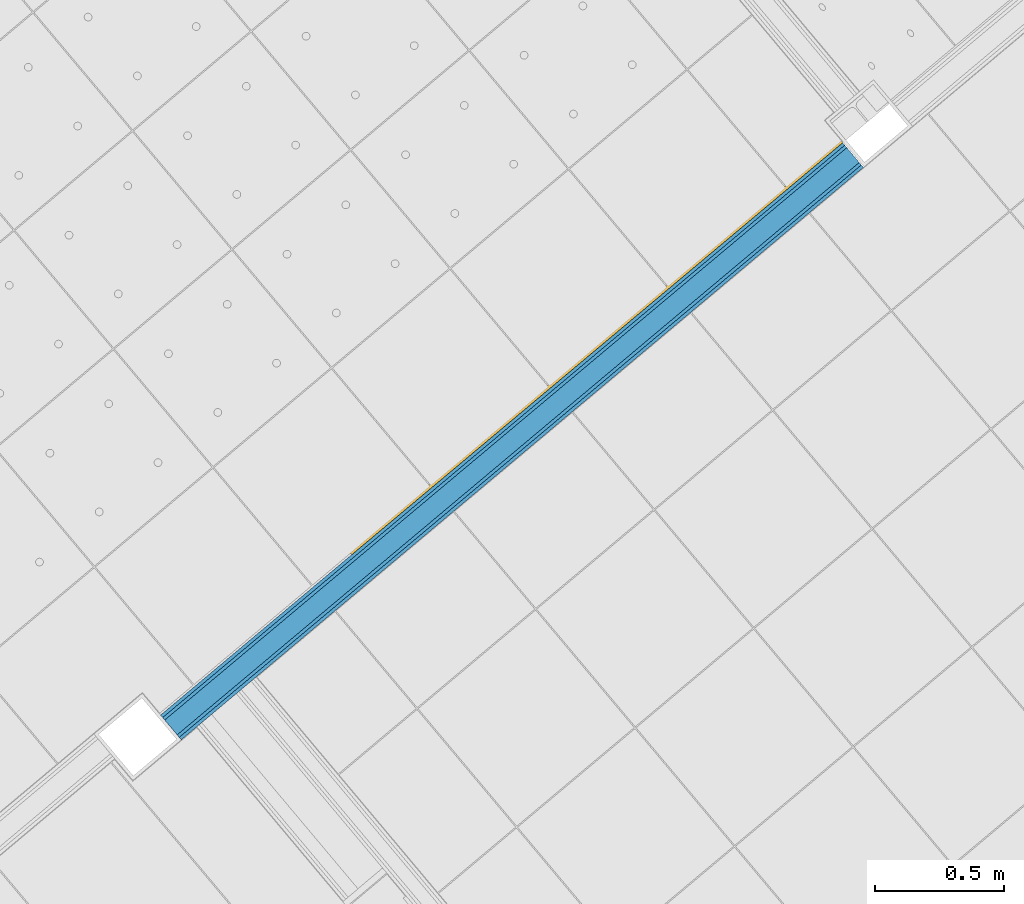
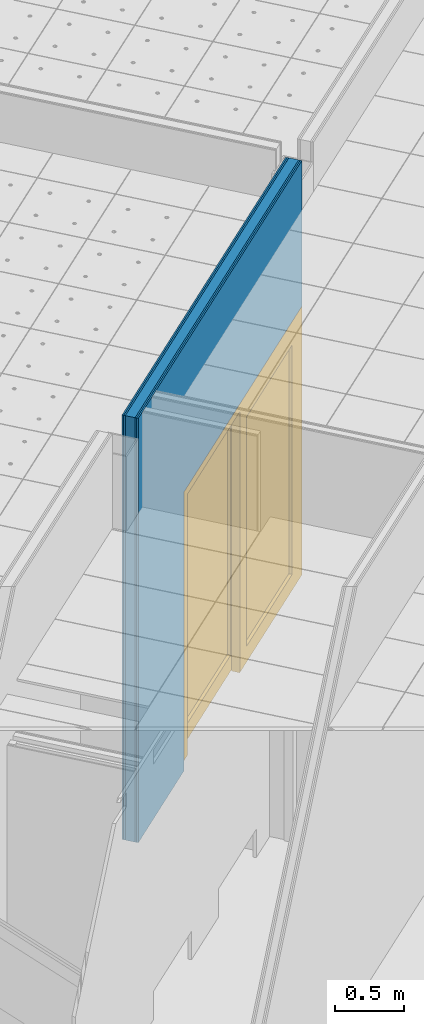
# One storey, part 6 of 338: 5 building element parts, 1 door, 1 opening, 1 element without a shape of its own.
"""IFC2X3 building model written with IfcOpenShell, lengths in millimetres."""

from ifc_helpers import new_model, entity, si_unit, converted_unit, derived_unit, money_unit, direction, frame, origin_with_axes, place, context, subcontext, project, spatial, open_shell, faceted_brep, surface_model, source, transform, mapped, material, type_object, type_shapes, element, fill, aggregate, save


model = new_model("IFC2X3")

# Units and contexts
model_context = context("Model", 3, precision=0.01, world=origin_with_axes(), true_north=direction((0.0, 1.0)))
plan_context = context("Plan", 3, precision=0.01, world=origin_with_axes(), true_north=direction((0.0, 1.0)))
body_context = subcontext(model_context, "Body", "Model", "MODEL_VIEW")
ifc_project = project(units=[si_unit("LENGTHUNIT", "METRE", prefix="MILLI"), si_unit("AREAUNIT", "SQUARE_METRE"), si_unit("VOLUMEUNIT", "CUBIC_METRE"), converted_unit("PLANEANGLEUNIT", "DEGREE", entity("IfcPlaneAngleMeasure", 0.0174532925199), si_unit("PLANEANGLEUNIT", "RADIAN"), dimensions=[0, 0, 0, 0, 0, 0, 0]), money_unit("EUR"), converted_unit("TIMEUNIT", "Year", entity("IfcTimeMeasure", 31556926.0), si_unit("TIMEUNIT", "SECOND"), dimensions=[0, 0, 1, 0, 0, 0, 0]), si_unit("MASSUNIT", "GRAM", prefix="KILO"), si_unit("THERMODYNAMICTEMPERATUREUNIT", "DEGREE_CELSIUS"), si_unit("LUMINOUSINTENSITYUNIT", "LUMEN"), si_unit("ENERGYUNIT", "JOULE", prefix="MEGA"), derived_unit("THERMALCONDUCTANCEUNIT", [(si_unit("POWERUNIT", "WATT"), 1), (si_unit("LENGTHUNIT", "METRE"), -1), (si_unit("THERMODYNAMICTEMPERATUREUNIT", "KELVIN"), -1)]), derived_unit("SPECIFICHEATCAPACITYUNIT", [(si_unit("ENERGYUNIT", "JOULE"), 1), (si_unit("MASSUNIT", "GRAM", prefix="KILO"), -1), (si_unit("THERMODYNAMICTEMPERATUREUNIT", "KELVIN"), -1)]), derived_unit("MASSDENSITYUNIT", [(si_unit("MASSUNIT", "GRAM", prefix="KILO"), 1), (si_unit("VOLUMEUNIT", "CUBIC_METRE"), -1)])], contexts=[model_context, plan_context])

# Site, building, storey
site_placement = place(None, origin_with_axes())
site = spatial("IfcSite", under=ifc_project, at=site_placement, Name="Fortuinstraat Woensdrecht", CompositionType="ELEMENT")
building_placement = place(site_placement, origin_with_axes())
building = spatial("IfcBuilding", under=site, at=building_placement, Name="IKC Fortuna", CompositionType="ELEMENT")
storey_placement = place(building_placement, origin_with_axes())
storey = spatial("IfcBuildingStorey", under=building, at=storey_placement, Name="00 begane grond", CompositionType="ELEMENT", Elevation=0.0)

# Door
door_style = type_object("IfcDoorStyle", Name="DSn 25", ConstructionType="NOTDEFINED", OperationType="USERDEFINED", ParameterTakesPrecedence=False, Sizeable=False)
shared_shape = source(origin_with_axes(), body_context, "Body", "SurfaceModel", [
    faceted_brep([(1242.5, 0.0, 0.0), (1242.5, -139.0, 0.0), (1175.5, -139.0, 0.0), (1175.5, 0.0, 0.0), (1242.5, 0.0, 2300.0), (1242.5, -139.0, 2300.0), (1175.5, -139.0, 2300.0), (1175.5, 0.0, 2300.0)], [[[0, 1, 2, 3]], [[4, 5, 1, 0]], [[1, 5, 6, 2]], [[3, 2, 6, 7]], [[0, 3, 7, 4]], [[7, 6, 5, 4]]]),
    faceted_brep([(-1242.5, 0.0, 0.0), (-1242.5, -139.0, 0.0), (-1242.5, -139.0, 2300.0), (-1242.5, 0.0, 2300.0), (-1175.5, 0.0, 0.0), (-1175.5, -139.0, 0.0), (-1175.5, -139.0, 2300.0), (-1175.5, 0.0, 2300.0)], [[[0, 1, 2, 3]], [[4, 5, 1, 0]], [[1, 5, 6, 2]], [[3, 2, 6, 7]], [[0, 3, 7, 4]], [[7, 6, 5, 4]]]),
    faceted_brep([(1242.5, 0.0, 2367.0), (1242.5, -139.0, 2367.0), (1242.5, -139.0, 2300.0), (1242.5, 0.0, 2300.0), (-1242.5, 0.0, 2367.0), (-1242.5, -139.0, 2367.0), (-1242.5, -139.0, 2300.0), (-1175.5, -139.0, 2300.0), (1175.5, -139.0, 2300.0), (1175.5, 0.0, 2300.0), (-1175.5, 0.0, 2300.0), (-1242.5, 0.0, 2300.0)], [[[0, 1, 2, 3]], [[4, 5, 1, 0]], [[1, 5, 6, 7, 8, 2]], [[3, 2, 8, 9]], [[0, 3, 9, 10, 11, 4]], [[11, 6, 5, 4]], [[10, 7, 6, 11]], [[9, 8, 7, 10]]]),
    faceted_brep([(-1175.5, 0.0, 139.0), (-1036.5, 0.0, 139.0), (-1036.5, -64.5, 139.0), (-1175.5, -64.5, 139.0), (-1175.5, 0.0, 2161.0), (-1036.5, 0.0, 2161.0), (-1036.5, -64.5, 2161.0), (-1175.5, -64.5, 2161.0)], [[[0, 1, 2, 3]], [[0, 4, 5, 1]], [[1, 5, 6, 2]], [[3, 2, 6, 7]], [[4, 0, 3, 7]], [[5, 4, 7, 6]]]),
    faceted_brep([(69.5, 0.0, 139.0), (69.5, 0.0, 2161.0), (69.5, -64.5, 2161.0), (69.5, -64.5, 139.0), (-69.5, 0.0, 139.0), (-69.5, 0.0, 2161.0), (-69.5, -64.5, 2161.0), (-69.5, -64.5, 139.0)], [[[0, 1, 2, 3]], [[0, 4, 5, 1]], [[1, 5, 6, 2]], [[3, 2, 6, 7]], [[4, 0, 3, 7]], [[5, 4, 7, 6]]]),
    faceted_brep([(-1175.5, 0.0, 0.0), (69.5, 0.0, 0.0), (69.5, -64.5, 0.0), (-1175.5, -64.5, 0.0), (-1175.5, 0.0, 139.0), (-1036.5, 0.0, 139.0), (-69.5, 0.0, 139.0), (69.5, 0.0, 139.0), (69.5, -64.5, 139.0), (-69.5, -64.5, 139.0), (-1036.5, -64.5, 139.0), (-1175.5, -64.5, 139.0)], [[[0, 1, 2, 3]], [[0, 4, 5, 6, 7, 1]], [[1, 7, 8, 2]], [[3, 2, 8, 9, 10, 11]], [[4, 0, 3, 11]], [[5, 4, 11, 10]], [[6, 5, 10, 9]], [[7, 6, 9, 8]]]),
    faceted_brep([(-1175.5, 0.0, 2300.0), (-1175.5, 0.0, 2161.0), (-1175.5, -64.5, 2161.0), (-1175.5, -64.5, 2300.0), (69.5, 0.0, 2300.0), (69.5, 0.0, 2161.0), (-69.5, 0.0, 2161.0), (-1036.5, 0.0, 2161.0), (-1036.5, -64.5, 2161.0), (-69.5, -64.5, 2161.0), (69.5, -64.5, 2161.0), (69.5, -64.5, 2300.0)], [[[0, 1, 2, 3]], [[0, 4, 5, 6, 7, 1]], [[1, 7, 8, 2]], [[3, 2, 8, 9, 10, 11]], [[4, 0, 3, 11]], [[5, 4, 11, 10]], [[6, 5, 10, 9]], [[7, 6, 9, 8]]]),
    surface_model("IfcShellBasedSurfaceModel", [(-1036.5, -26.25, 139.0), (-1036.5, -26.25, 2161.0), (-69.5, -26.25, 2161.0), (-69.5, -26.25, 139.0)], [open_shell([[[0, 1, 2, 3]]])]),
    surface_model("IfcShellBasedSurfaceModel", [(-1036.5, -38.25, 139.0), (-69.5, -38.25, 139.0), (-69.5, -38.25, 2161.0), (-1036.5, -38.25, 2161.0)], [open_shell([[[0, 1, 2, 3]]])]),
    faceted_brep([(1110.5, -134.0, 965.0), (1110.5, -144.0, 965.0), (1110.5, -144.0, 1035.0), (1110.5, -134.0, 1035.0), (1140.5, -134.0, 965.0), (1140.5, -144.0, 965.0), (1140.5, -144.0, 1035.0), (1140.5, -134.0, 1035.0)], [[[0, 1, 2, 3]], [[4, 5, 1, 0]], [[1, 5, 6, 2]], [[3, 2, 6, 7]], [[0, 3, 7, 4]], [[7, 6, 5, 4]]]),
    faceted_brep([(1124.13436775, -144.0, 1006.86549696), (1125.5, -144.0, 1007.0), (1126.86563225, -144.0, 1006.86549696), (1128.17878403, -144.0, 1006.46715673), (1129.38899163, -144.0, 1005.82028729), (1130.44974747, -144.0, 1004.94974747), (1131.32028729, -144.0, 1003.88899163), (1131.96715673, -144.0, 1002.67878403), (1132.36549696, -144.0, 1001.36563225), (1132.5, -144.0, 1000.0), (1132.36549696, -144.0, 998.634367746), (1131.96715673, -144.0, 997.321215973), (1131.32028729, -144.0, 996.111008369), (1130.44974747, -144.0, 995.050252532), (1129.38899163, -144.0, 994.179712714), (1128.17878403, -144.0, 993.532843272), (1126.86563225, -144.0, 993.134503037), (1125.5, -144.0, 993.0), (1124.13436775, -144.0, 993.134503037), (1122.82121597, -144.0, 993.532843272), (1121.61100837, -144.0, 994.179712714), (1120.55025253, -144.0, 995.050252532), (1119.67971271, -144.0, 996.111008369), (1119.03284327, -144.0, 997.321215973), (1118.63450304, -144.0, 998.634367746), (1118.5, -144.0, 1000.0), (1118.63450304, -144.0, 1001.36563225), (1119.03284327, -144.0, 1002.67878403), (1119.67971271, -144.0, 1003.88899163), (1120.55025253, -144.0, 1004.94974747), (1121.61100837, -144.0, 1005.82028729), (1122.82121597, -144.0, 1006.46715673), (1124.13436775, -159.0, 1006.86549696), (1125.5, -159.0, 1007.0), (1126.86563225, -159.0, 1006.86549696), (1128.17878403, -159.0, 1006.46715673), (1129.38899163, -159.0, 1005.82028729), (1130.44974747, -159.0, 1004.94974747), (1131.32028729, -159.0, 1003.88899163), (1131.96715673, -159.0, 1002.67878403), (1132.36549696, -159.0, 1001.36563225), (1132.5, -159.0, 1000.0), (1132.36549696, -159.0, 998.634367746), (1131.96715673, -159.0, 997.321215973), (1131.32028729, -159.0, 996.111008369), (1130.44974747, -159.0, 995.050252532), (1129.38899163, -159.0, 994.179712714), (1128.17878403, -159.0, 993.532843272), (1126.86563225, -159.0, 993.134503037), (1125.5, -159.0, 993.0), (1124.13436775, -159.0, 993.134503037), (1122.82121597, -159.0, 993.532843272), (1121.61100837, -159.0, 994.179712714), (1120.55025253, -159.0, 995.050252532), (1119.67971271, -159.0, 996.111008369), (1119.03284327, -159.0, 997.321215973), (1118.63450304, -159.0, 998.634367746), (1118.5, -159.0, 1000.0), (1118.63450304, -159.0, 1001.36563225), (1119.03284327, -159.0, 1002.67878403), (1119.67971271, -159.0, 1003.88899163), (1120.55025253, -159.0, 1004.94974747), (1121.61100837, -159.0, 1005.82028729), (1122.82121597, -159.0, 1006.46715673)], [[[0, 1, 2, 3, 4, 5, 6, 7, 8, 9, 10, 11, 12, 13, 14, 15, 16, 17, 18, 19, 20, 21, 22, 23, 24, 25, 26, 27, 28, 29, 30, 31]], [[0, 32, 33, 1]], [[1, 33, 34, 2]], [[2, 34, 35, 3]], [[3, 35, 36, 4]], [[4, 36, 37, 5]], [[5, 37, 38, 6]], [[6, 38, 39, 7]], [[7, 39, 40, 8]], [[8, 40, 41, 9]], [[9, 41, 42, 10]], [[10, 42, 43, 11]], [[11, 43, 44, 12]], [[12, 44, 45, 13]], [[13, 45, 46, 14]], [[14, 46, 47, 15]], [[15, 47, 48, 16]], [[16, 48, 49, 17]], [[17, 49, 50, 18]], [[18, 50, 51, 19]], [[19, 51, 52, 20]], [[20, 52, 53, 21]], [[21, 53, 54, 22]], [[22, 54, 55, 23]], [[23, 55, 56, 24]], [[24, 56, 57, 25]], [[25, 57, 58, 26]], [[26, 58, 59, 27]], [[27, 59, 60, 28]], [[28, 60, 61, 29]], [[29, 61, 62, 30]], [[30, 62, 63, 31]], [[31, 63, 32, 0]], [[32, 63, 62, 61, 60, 59, 58, 57, 56, 55, 54, 53, 52, 51, 50, 49, 48, 47, 46, 45, 44, 43, 42, 41, 40, 39, 38, 37, 36, 35, 34, 33]]]),
    faceted_brep([(1115.5, -159.0, 990.0), (1115.5, -169.0, 990.0), (1115.5, -169.0, 1010.0), (1115.5, -159.0, 1010.0), (1135.5, -159.0, 990.0), (1135.5, -169.0, 990.0), (1135.5, -169.0, 1010.0), (1135.5, -159.0, 1010.0)], [[[0, 1, 2, 3]], [[4, 5, 1, 0]], [[1, 5, 6, 2]], [[3, 2, 6, 7]], [[0, 3, 7, 4]], [[7, 6, 5, 4]]]),
    faceted_brep([(1115.5, -169.0, 990.0), (1120.5, -167.0, 965.0), (1130.5, -167.0, 965.0), (1135.5, -169.0, 990.0), (1115.5, -159.0, 990.0), (1120.5, -163.0, 965.0), (1130.5, -163.0, 965.0), (1135.5, -159.0, 990.0)], [[[0, 1, 2, 3]], [[4, 5, 1, 0]], [[1, 5, 6, 2]], [[3, 2, 6, 7]], [[0, 3, 7, 4]], [[7, 6, 5, 4]]]),
    faceted_brep([(1115.5, -169.0, 1010.0), (1135.5, -169.0, 1010.0), (1130.5, -167.0, 1035.0), (1120.5, -167.0, 1035.0), (1115.5, -159.0, 1010.0), (1135.5, -159.0, 1010.0), (1130.5, -163.0, 1035.0), (1120.5, -163.0, 1035.0)], [[[0, 1, 2, 3]], [[0, 4, 5, 1]], [[1, 5, 6, 2]], [[3, 2, 6, 7]], [[4, 0, 3, 7]], [[5, 4, 7, 6]]]),
    faceted_brep([(1110.5, -69.5, 965.0), (1110.5, -69.5, 1035.0), (1110.5, -59.5, 1035.0), (1110.5, -59.5, 965.0), (1140.5, -69.5, 965.0), (1140.5, -69.5, 1035.0), (1140.5, -59.5, 1035.0), (1140.5, -59.5, 965.0)], [[[0, 1, 2, 3]], [[0, 4, 5, 1]], [[1, 5, 6, 2]], [[3, 2, 6, 7]], [[4, 0, 3, 7]], [[5, 4, 7, 6]]]),
    faceted_brep([(1124.13436775, -59.5, 1006.86549696), (1122.82121597, -59.5, 1006.46715673), (1121.61100837, -59.5, 1005.82028729), (1120.55025253, -59.5, 1004.94974747), (1119.67971271, -59.5, 1003.88899163), (1119.03284327, -59.5, 1002.67878403), (1118.63450304, -59.5, 1001.36563225), (1118.5, -59.5, 1000.0), (1118.63450304, -59.5, 998.634367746), (1119.03284327, -59.5, 997.321215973), (1119.67971271, -59.5, 996.111008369), (1120.55025253, -59.5, 995.050252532), (1121.61100837, -59.5, 994.179712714), (1122.82121597, -59.5, 993.532843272), (1124.13436775, -59.5, 993.134503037), (1125.5, -59.5, 993.0), (1126.86563225, -59.5, 993.134503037), (1128.17878403, -59.5, 993.532843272), (1129.38899163, -59.5, 994.179712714), (1130.44974747, -59.5, 995.050252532), (1131.32028729, -59.5, 996.111008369), (1131.96715673, -59.5, 997.321215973), (1132.36549696, -59.5, 998.634367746), (1132.5, -59.5, 1000.0), (1132.36549696, -59.5, 1001.36563225), (1131.96715673, -59.5, 1002.67878403), (1131.32028729, -59.5, 1003.88899163), (1130.44974747, -59.5, 1004.94974747), (1129.38899163, -59.5, 1005.82028729), (1128.17878403, -59.5, 1006.46715673), (1126.86563225, -59.5, 1006.86549696), (1125.5, -59.5, 1007.0), (1124.13436775, -44.5, 1006.86549696), (1122.82121597, -44.5, 1006.46715673), (1121.61100837, -44.5, 1005.82028729), (1120.55025253, -44.5, 1004.94974747), (1119.67971271, -44.5, 1003.88899163), (1119.03284327, -44.5, 1002.67878403), (1118.63450304, -44.5, 1001.36563225), (1118.5, -44.5, 1000.0), (1118.63450304, -44.5, 998.634367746), (1119.03284327, -44.5, 997.321215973), (1119.67971271, -44.5, 996.111008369), (1120.55025253, -44.5, 995.050252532), (1121.61100837, -44.5, 994.179712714), (1122.82121597, -44.5, 993.532843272), (1124.13436775, -44.5, 993.134503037), (1125.5, -44.5, 993.0), (1126.86563225, -44.5, 993.134503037), (1128.17878403, -44.5, 993.532843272), (1129.38899163, -44.5, 994.179712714), (1130.44974747, -44.5, 995.050252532), (1131.32028729, -44.5, 996.111008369), (1131.96715673, -44.5, 997.321215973), (1132.36549696, -44.5, 998.634367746), (1132.5, -44.5, 1000.0), (1132.36549696, -44.5, 1001.36563225), (1131.96715673, -44.5, 1002.67878403), (1131.32028729, -44.5, 1003.88899163), (1130.44974747, -44.5, 1004.94974747), (1129.38899163, -44.5, 1005.82028729), (1128.17878403, -44.5, 1006.46715673), (1126.86563225, -44.5, 1006.86549696), (1125.5, -44.5, 1007.0)], [[[0, 1, 2, 3, 4, 5, 6, 7, 8, 9, 10, 11, 12, 13, 14, 15, 16, 17, 18, 19, 20, 21, 22, 23, 24, 25, 26, 27, 28, 29, 30, 31]], [[1, 0, 32, 33]], [[2, 1, 33, 34]], [[3, 2, 34, 35]], [[4, 3, 35, 36]], [[5, 4, 36, 37]], [[6, 5, 37, 38]], [[7, 6, 38, 39]], [[8, 7, 39, 40]], [[9, 8, 40, 41]], [[10, 9, 41, 42]], [[11, 10, 42, 43]], [[12, 11, 43, 44]], [[13, 12, 44, 45]], [[14, 13, 45, 46]], [[15, 14, 46, 47]], [[16, 15, 47, 48]], [[17, 16, 48, 49]], [[18, 17, 49, 50]], [[19, 18, 50, 51]], [[20, 19, 51, 52]], [[21, 20, 52, 53]], [[22, 21, 53, 54]], [[23, 22, 54, 55]], [[24, 23, 55, 56]], [[25, 24, 56, 57]], [[26, 25, 57, 58]], [[27, 26, 58, 59]], [[28, 27, 59, 60]], [[29, 28, 60, 61]], [[30, 29, 61, 62]], [[31, 30, 62, 63]], [[0, 31, 63, 32]], [[32, 63, 62, 61, 60, 59, 58, 57, 56, 55, 54, 53, 52, 51, 50, 49, 48, 47, 46, 45, 44, 43, 42, 41, 40, 39, 38, 37, 36, 35, 34, 33]]]),
    faceted_brep([(1115.5, -44.5, 990.0), (1115.5, -44.5, 1010.0), (1115.5, -34.5, 1010.0), (1115.5, -34.5, 990.0), (1135.5, -44.5, 990.0), (1135.5, -44.5, 1010.0), (1135.5, -34.5, 1010.0), (1135.5, -34.5, 990.0)], [[[0, 1, 2, 3]], [[0, 4, 5, 1]], [[1, 5, 6, 2]], [[3, 2, 6, 7]], [[4, 0, 3, 7]], [[5, 4, 7, 6]]]),
    faceted_brep([(1115.5, -34.5, 990.0), (1135.5, -34.5, 990.0), (1130.5, -36.5, 965.0), (1120.5, -36.5, 965.0), (1115.5, -44.5, 990.0), (1135.5, -44.5, 990.0), (1130.5, -40.5, 965.0), (1120.5, -40.5, 965.0)], [[[0, 1, 2, 3]], [[0, 4, 5, 1]], [[1, 5, 6, 2]], [[3, 2, 6, 7]], [[4, 0, 3, 7]], [[5, 4, 7, 6]]]),
    faceted_brep([(1115.5, -34.5, 1010.0), (1120.5, -36.5, 1035.0), (1130.5, -36.5, 1035.0), (1135.5, -34.5, 1010.0), (1115.5, -44.5, 1010.0), (1120.5, -40.5, 1035.0), (1130.5, -40.5, 1035.0), (1135.5, -44.5, 1010.0)], [[[0, 1, 2, 3]], [[4, 5, 1, 0]], [[1, 5, 6, 2]], [[3, 2, 6, 7]], [[0, 3, 7, 4]], [[7, 6, 5, 4]]]),
    faceted_brep([(-69.5, -69.5, 139.0), (69.5, -69.5, 139.0), (69.5, -134.0, 139.0), (-69.5, -134.0, 139.0), (-69.5, -69.5, 2161.0), (69.5, -69.5, 2161.0), (69.5, -134.0, 2161.0), (-69.5, -134.0, 2161.0)], [[[0, 1, 2, 3]], [[0, 4, 5, 1]], [[1, 5, 6, 2]], [[3, 2, 6, 7]], [[4, 0, 3, 7]], [[5, 4, 7, 6]]]),
    faceted_brep([(1175.5, -69.5, 139.0), (1175.5, -69.5, 2161.0), (1175.5, -134.0, 2161.0), (1175.5, -134.0, 139.0), (1036.5, -69.5, 139.0), (1036.5, -69.5, 2161.0), (1036.5, -134.0, 2161.0), (1036.5, -134.0, 139.0)], [[[0, 1, 2, 3]], [[0, 4, 5, 1]], [[1, 5, 6, 2]], [[3, 2, 6, 7]], [[4, 0, 3, 7]], [[5, 4, 7, 6]]]),
    faceted_brep([(-69.5, -69.5, 0.0), (1175.5, -69.5, 0.0), (1175.5, -134.0, 0.0), (-69.5, -134.0, 0.0), (-69.5, -69.5, 139.0), (69.5, -69.5, 139.0), (1036.5, -69.5, 139.0), (1175.5, -69.5, 139.0), (1175.5, -134.0, 139.0), (1036.5, -134.0, 139.0), (69.5, -134.0, 139.0), (-69.5, -134.0, 139.0)], [[[0, 1, 2, 3]], [[0, 4, 5, 6, 7, 1]], [[1, 7, 8, 2]], [[3, 2, 8, 9, 10, 11]], [[4, 0, 3, 11]], [[5, 4, 11, 10]], [[6, 5, 10, 9]], [[7, 6, 9, 8]]]),
    faceted_brep([(-69.5, -69.5, 2300.0), (-69.5, -69.5, 2161.0), (-69.5, -134.0, 2161.0), (-69.5, -134.0, 2300.0), (1175.5, -69.5, 2300.0), (1175.5, -69.5, 2161.0), (1036.5, -69.5, 2161.0), (69.5, -69.5, 2161.0), (69.5, -134.0, 2161.0), (1036.5, -134.0, 2161.0), (1175.5, -134.0, 2161.0), (1175.5, -134.0, 2300.0)], [[[0, 1, 2, 3]], [[0, 4, 5, 6, 7, 1]], [[1, 7, 8, 2]], [[3, 2, 8, 9, 10, 11]], [[4, 0, 3, 11]], [[5, 4, 11, 10]], [[6, 5, 10, 9]], [[7, 6, 9, 8]]]),
    surface_model("IfcShellBasedSurfaceModel", [(69.5, -95.75, 139.0), (69.5, -95.75, 2161.0), (1036.5, -95.75, 2161.0), (1036.5, -95.75, 139.0)], [open_shell([[[0, 1, 2, 3]]])]),
    surface_model("IfcShellBasedSurfaceModel", [(69.5, -107.75, 139.0), (1036.5, -107.75, 139.0), (1036.5, -107.75, 2161.0), (69.5, -107.75, 2161.0)], [open_shell([[[0, 1, 2, 3]]])]),
])
type_shapes(door_style, [shared_shape])
wall_placement = place(storey_placement, frame((7851.47497472, -3178.47144048, 1360.0), z_axis=(0.0, 0.0, 1.0), x_axis=(0.766044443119, 0.642787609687, 0.0)))
opening_placement = place(wall_placement, frame((2210.00375737, 0.0, 90.0), z_axis=(0.0, 0.0, 1.0), x_axis=(1.0, 0.0, 0.0)))
door_placement = place(opening_placement, frame((1242.5, 0.0, 0.0), z_axis=(0.0, 0.0, 1.0), x_axis=(-1.0, 0.0, 0.0)))
door = element("IfcDoor", 1, at=door_placement, inside=storey, type_object=door_style, Name="32_Deur_h.03", ObjectType="DOOR", OverallHeight=2367.0, OverallWidth=2485.0, context=body_context, shape_type="MappedRepresentation", body=[
    mapped(shared_shape, transform((1242.5, 0.0, 0.0))),
])

# Wall, opening
wall_type = type_object("IfcWallType", Name="MS125 2.75.2A 125", PredefinedType="NOTDEFINED")
wall = element("IfcWall", 2, at=wall_placement, inside=storey, type_object=wall_type, Name="22_Wand_Binnenwand")
opening = element("IfcOpeningElement", 3, at=opening_placement, cuts=wall, Name="32_Deur_h.03", context=body_context, shape_type="Brep", body=[
    faceted_brep([(1242.5, -250.0, 2367.0), (1242.5, -250.0, -90.0), (1242.5, 125.0, -90.0), (1242.5, 125.0, 2367.0), (-1242.5, -250.0, 2367.0), (-1242.5, -250.0, -90.0), (-1242.5, 125.0, -90.0), (-1242.5, 125.0, 2367.0)], [[[0, 1, 2, 3]], [[0, 4, 5, 1]], [[1, 5, 6, 2]], [[3, 2, 6, 7]], [[4, 0, 3, 7]], [[5, 4, 7, 6]]]),
])

fill(opening, door)

# Building element part
ifc_material_1 = material(Name="Gipsplaat")
building_element_part_1_placement = place(wall_placement, origin_with_axes())
building_element_part_1 = element("IfcBuildingElementPart", 4, at=building_element_part_1_placement, material=ifc_material_1, Name="Gipsplaat", context=body_context, shape_type="Brep", body=[
    faceted_brep([(967.503757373, 112.5, 0.0), (967.503757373, 112.5, 2457.0), (3452.50375737, 112.5, 2457.0), (3452.50375737, 112.5, 3740.0), (0.0, 112.5, 3740.0), (0.0, 112.5, 0.0), (967.503757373, 125.0, 0.0), (967.503757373, 125.0, 2457.0), (3452.50375737, 125.0, 2457.0), (3452.50375737, 125.0, 3740.0), (0.0, 125.0, 3740.0), (0.0, 125.0, 0.0)], [[[0, 1, 2, 3, 4, 5]], [[1, 0, 6, 7]], [[8, 2, 1, 7]], [[2, 8, 9, 3]], [[9, 10, 4, 3]], [[10, 11, 5, 4]], [[6, 0, 5, 11]], [[7, 6, 11, 10, 9, 8]]]),
])

building_element_part_2_placement = place(wall_placement, origin_with_axes())
building_element_part_2 = element("IfcBuildingElementPart", 5, at=building_element_part_2_placement, material=ifc_material_1, Name="Gipsplaat", context=body_context, shape_type="Brep", body=[
    faceted_brep([(967.503757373, 100.0, 0.0), (967.503757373, 100.0, 2457.0), (3452.50375737, 100.0, 2457.0), (3452.50375737, 100.0, 3740.0), (0.0, 100.0, 3740.0), (0.0, 100.0, 0.0), (967.503757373, 112.5, 0.0), (967.503757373, 112.5, 2457.0), (3452.50375737, 112.5, 2457.0), (3452.50375737, 112.5, 3740.0), (0.0, 112.5, 3740.0), (0.0, 112.5, 0.0)], [[[0, 1, 2, 3, 4, 5]], [[1, 0, 6, 7]], [[8, 2, 1, 7]], [[2, 8, 9, 3]], [[9, 10, 4, 3]], [[10, 11, 5, 4]], [[6, 0, 5, 11]], [[7, 6, 11, 10, 9, 8]]]),
])

ifc_material_2 = material(Name="Isolatie - Steenwol LSW")
building_element_part_3_placement = place(wall_placement, origin_with_axes())
building_element_part_3 = element("IfcBuildingElementPart", 6, at=building_element_part_3_placement, material=ifc_material_2, Name="Isolatie - Steenwol LSW", context=body_context, shape_type="Brep", body=[
    faceted_brep([(967.503757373, 25.0, 0.0), (967.503757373, 25.0, 2457.0), (3452.50375737, 25.0, 2457.0), (3452.50375737, 25.0, 3740.0), (0.0, 25.0, 3740.0), (0.0, 25.0, 0.0), (967.503757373, 100.0, 0.0), (967.503757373, 100.0, 2457.0), (3452.50375737, 100.0, 2457.0), (3452.50375737, 100.0, 3740.0), (0.0, 100.0, 3740.0), (0.0, 100.0, 0.0)], [[[0, 1, 2, 3, 4, 5]], [[1, 0, 6, 7]], [[8, 2, 1, 7]], [[2, 8, 9, 3]], [[9, 10, 4, 3]], [[10, 11, 5, 4]], [[6, 0, 5, 11]], [[7, 6, 11, 10, 9, 8]]]),
])

building_element_part_4_placement = place(wall_placement, origin_with_axes())
building_element_part_4 = element("IfcBuildingElementPart", 7, at=building_element_part_4_placement, material=ifc_material_1, Name="Gipsplaat", context=body_context, shape_type="Brep", body=[
    faceted_brep([(967.503757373, 12.5, 0.0), (967.503757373, 12.5, 2457.0), (3452.50375737, 12.5, 2457.0), (3452.50375737, 12.5, 3740.0), (0.0, 12.5, 3740.0), (0.0, 12.5, 0.0), (967.503757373, 25.0, 0.0), (967.503757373, 25.0, 2457.0), (3452.50375737, 25.0, 2457.0), (3452.50375737, 25.0, 3740.0), (0.0, 25.0, 3740.0), (0.0, 25.0, 0.0)], [[[0, 1, 2, 3, 4, 5]], [[1, 0, 6, 7]], [[8, 2, 1, 7]], [[2, 8, 9, 3]], [[9, 10, 4, 3]], [[10, 11, 5, 4]], [[6, 0, 5, 11]], [[7, 6, 11, 10, 9, 8]]]),
])

building_element_part_5_placement = place(wall_placement, origin_with_axes())
building_element_part_5 = element("IfcBuildingElementPart", 8, at=building_element_part_5_placement, material=ifc_material_1, Name="Gipsplaat", context=body_context, shape_type="Brep", body=[
    faceted_brep([(967.503757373, 0.0, 0.0), (967.503757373, 0.0, 2457.0), (3452.50375737, 0.0, 2457.0), (3452.50375737, 0.0, 3740.0), (0.0, 0.0, 3740.0), (0.0, 0.0, 0.0), (967.503757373, 12.5, 0.0), (967.503757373, 12.5, 2457.0), (3452.50375737, 12.5, 2457.0), (3452.50375737, 12.5, 3740.0), (0.0, 12.5, 3740.0), (0.0, 12.5, 0.0)], [[[0, 1, 2, 3, 4, 5]], [[1, 0, 6, 7]], [[8, 2, 1, 7]], [[2, 8, 9, 3]], [[9, 10, 4, 3]], [[10, 11, 5, 4]], [[6, 0, 5, 11]], [[7, 6, 11, 10, 9, 8]]]),
])

aggregate(wall, [building_element_part_1, building_element_part_2, building_element_part_3, building_element_part_4, building_element_part_5])

save(model, "model.ifc")
